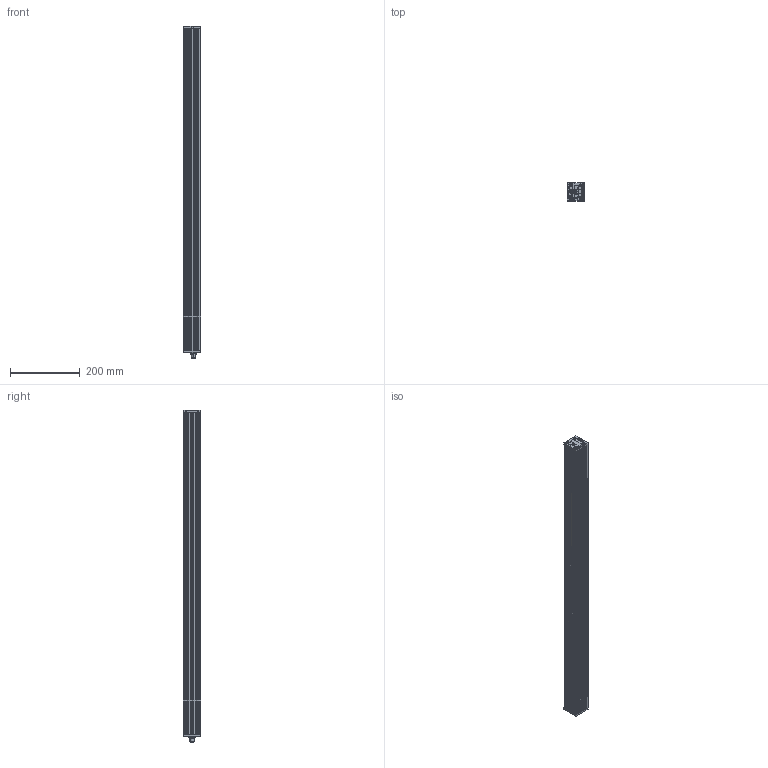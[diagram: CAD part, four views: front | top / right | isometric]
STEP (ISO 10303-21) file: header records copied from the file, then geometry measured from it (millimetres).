
FILE_DESCRIPTION (( 'STEP AP214' ), '1' );
FILE_NAME ('008825A.STEP', '2018-10-16T07:43:19', ( '' ), ( '' ), 'SwSTEP 2.0', 'SolidWorks 2018', '' );
FILE_SCHEMA (( 'AUTOMOTIVE_DESIGN' ));
Length unit declared in the file: millimetre
Products named in the file (8): 000959; 000958; 008825A; 008769; 001161A923; 001596A923; 000096; 000605
Assembly tree (15 placements, depth 2):
  008825A
    000958
    000096
    000959
    001596A923
    000605  x6
    008769  x4
    001161A923
Bounding box: 49 x 51 x 952.2 mm (x, y, z)
Volume: 982057.3 mm3; surface area: 776797.1 mm2
Topology: 17 solids, 17 shells, 3036 faces, 8235 edges, 5430 vertices
Faces by surface type: plane 1685, bspline 598, cylinder 549, cone 202, torus 2
Entity records: 132365 total; most frequent: CARTESIAN_POINT 61488, ORIENTED_EDGE 15488, DIRECTION 12237, EDGE_CURVE 7744, LINE 5203, VECTOR 5203, VERTEX_POINT 5141, AXIS2_PLACEMENT_3D 3517
